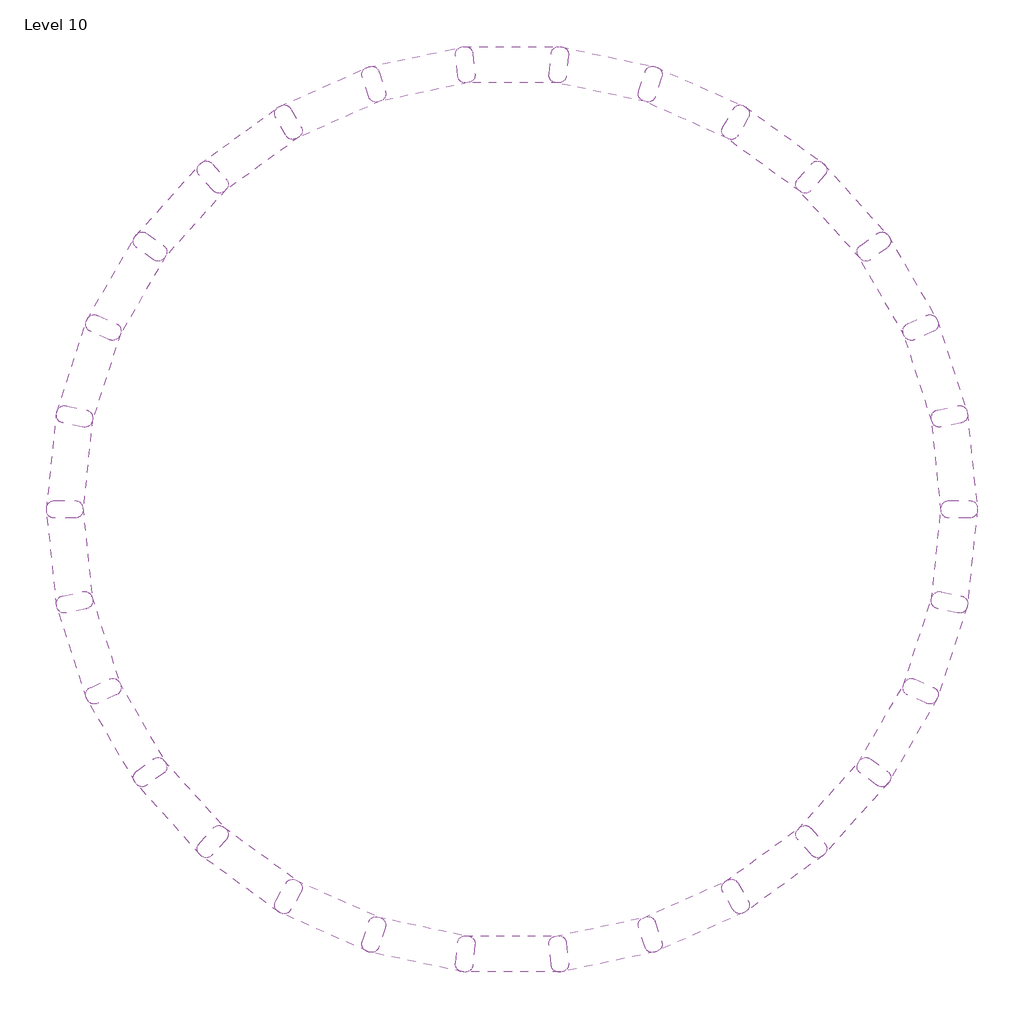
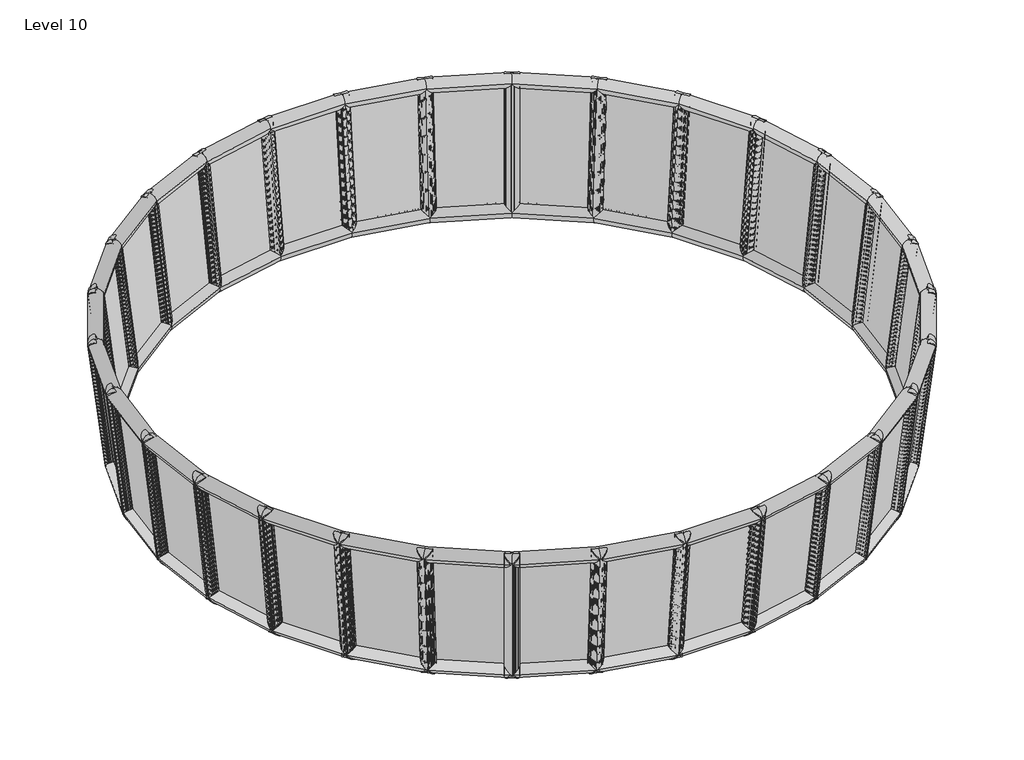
# One storey: 30 plates.
"""IFC4 building model written with IfcOpenShell, lengths in millimetres."""

from ifc_helpers import new_model, si_unit, origin, place, context, project, spatial, transform, mapped, element, save
from components import curtainpanel_curtainpanel_256ebfa4

model = new_model("IFC4")

# Units and contexts
model_context = context("Model", 3, world=origin())
ifc_project = project(units=[si_unit("LENGTHUNIT", "METRE", prefix="MILLI")], contexts=[model_context])

# Site, building, storey
site = spatial("IfcSite", under=ifc_project)
building = spatial("IfcBuilding", under=site)
storey = spatial("IfcBuildingStorey", under=building, Name="Level 10", Elevation=36000.0)

# Plates
placement = place(None, origin())
curtainpanel_curtainpanel_shape = curtainpanel_curtainpanel_256ebfa4(model_context)
element("IfcPlate", 1, ObjectType="CurtainPanel : CurtainPanel", at=placement, inside=storey, context=model_context, shape_type="MappedRepresentation", body=[
    mapped(curtainpanel_curtainpanel_shape, transform((11847.7823629, -2324.0958982, 47665.2696254), x_axis=(-0.12994493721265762, 0.9607468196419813, -0.24511193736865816), y_axis=(-0.08669746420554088, -0.2572707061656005, -0.9624423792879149), z_axis=(-0.9877235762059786, -0.10381393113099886, 0.11672533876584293))),
])
element("IfcPlate", 2, ObjectType="CurtainPanel : CurtainPanel", at=placement, inside=storey, context=model_context, shape_type="MappedRepresentation", body=[
    mapped(curtainpanel_curtainpanel_shape, transform((12006.730101, 248.511173, 47665.2696254), x_axis=(-0.3268558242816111, 0.9127351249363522, -0.24511193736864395), y_axis=(-0.031313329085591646, -0.2696741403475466, -0.9624423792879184), z_axis=(-0.944555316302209, -0.3069046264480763, 0.11672533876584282))),
])
element("IfcPlate", 3, ObjectType="CurtainPanel : CurtainPanel", at=placement, inside=storey, context=model_context, shape_type="MappedRepresentation", body=[
    mapped(curtainpanel_curtainpanel_shape, transform((11627.3293637, 2797.9477004, 47665.2696254), x_axis=(-0.5094815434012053, 0.8248325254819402, -0.24511193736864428), y_axis=(0.02543934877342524, -0.2702915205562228, -0.9624423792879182), z_axis=(-0.8601054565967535, -0.4965821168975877, 0.11672533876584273))),
])
element("IfcPlate", 4, ObjectType="CurtainPanel : CurtainPanel", at=placement, inside=storey, context=model_context, shape_type="MappedRepresentation", body=[
    mapped(curtainpanel_curtainpanel_shape, transform((10726.1617838, 5212.7910741, 47665.2696254), x_axis=(-0.6698404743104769, 0.7008807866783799, -0.245111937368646), y_axis=(0.08108020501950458, -0.2590958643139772, -0.9624423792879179), z_axis=(-0.7380648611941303, -0.6645565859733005, 0.1167253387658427))),
])
element("IfcPlate", 5, ObjectType="CurtainPanel : CurtainPanel", at=placement, inside=storey, context=model_context, shape_type="MappedRepresentation", body=[
    mapped(curtainpanel_curtainpanel_shape, transform((9342.6127087, 7387.501051, 47665.2696254), x_axis=(-0.8009241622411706, 0.5462971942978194, -0.245111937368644), y_axis=(0.1331774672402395, -0.2365764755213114, -0.9624423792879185), z_axis=(-0.5837672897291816, -0.803486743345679, 0.11672533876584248))),
])
element("IfcPlate", 6, ObjectType="CurtainPanel : CurtainPanel", at=placement, inside=storey, context=model_context, shape_type="MappedRepresentation", body=[
    mapped(curtainpanel_curtainpanel_shape, transform((7537.1498721, 9227.0323696, 47665.2696254), x_axis=(-0.8970036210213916, 0.36783779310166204, -0.24511193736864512), y_axis=(0.17945423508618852, -0.2037175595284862, -0.9624423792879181), z_axis=(-0.4039562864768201, -0.90730067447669, 0.11672533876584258))),
])
element("IfcPlate", 7, ObjectType="CurtainPanel : CurtainPanel", at=placement, inside=storey, context=model_context, shape_type="MappedRepresentation", body=[
    mapped(curtainpanel_curtainpanel_shape, transform((5388.6806635, 10650.9886843, 47665.2696254), x_axis=(-0.9538797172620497, 0.1733021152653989, -0.24511193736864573), y_axis=(0.21788799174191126, -0.1619552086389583, -0.962442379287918), z_axis=(-0.2064904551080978, -0.9714612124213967, 0.1167253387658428))),
])
element("IfcPlate", 8, ObjectType="CurtainPanel : CurtainPanel", at=placement, inside=storey, context=model_context, shape_type="MappedRepresentation", body=[
    mapped(curtainpanel_curtainpanel_shape, transform((2991.1034968, 11597.1362713, 47665.2696254), x_axis=(-0.969066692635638, -0.02880769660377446, -0.24511193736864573), y_axis=(0.2467989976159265, -0.11311463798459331, -0.962442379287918), z_axis=(0.0, -0.9931642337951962, 0.1167253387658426))),
])
element("IfcPlate", 9, ObjectType="CurtainPanel : CurtainPanel", at=placement, inside=storey, context=model_context, shape_type="MappedRepresentation", body=[
    mapped(curtainpanel_curtainpanel_shape, transform((449.2039991, 12024.1239409, 47665.2696254), x_axis=(-0.9419008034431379, -0.22965847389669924, -0.24511193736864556), y_axis=(0.2649237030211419, -0.059330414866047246, -0.9624423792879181), z_axis=(0.20649045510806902, -0.9714612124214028, 0.11672533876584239))),
])
element("IfcPlate", 10, ObjectType="CurtainPanel : CurtainPanel", at=placement, inside=storey, context=model_context, shape_type="MappedRepresentation", body=[
    mapped(curtainpanel_curtainpanel_shape, transform((-2125.9246243, 11913.2902829, 47665.2696254), x_axis=(-0.8735693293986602, -0.42047207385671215, -0.24511193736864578), y_axis=(0.2714699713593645, -0.0029531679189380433, -0.9624423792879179), z_axis=(0.4039562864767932, -0.9073006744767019, 0.1167253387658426))),
])
element("IfcPlate", 11, ObjectType="CurtainPanel : CurtainPanel", at=placement, inside=storey, context=model_context, shape_type="MappedRepresentation", body=[
    mapped(curtainpanel_curtainpanel_shape, transform((-4621.7368956, 11269.4792601, 47665.2696254), x_axis=(-0.7670586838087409, -0.5929090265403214, -0.24511193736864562), y_axis=(0.26615169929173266, 0.053553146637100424, -0.962442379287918), z_axis=(0.583767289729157, -0.8034867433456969, 0.11672533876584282))),
])
element("IfcPlate", 12, ObjectType="CurtainPanel : CurtainPanel", at=placement, inside=storey, context=model_context, shape_type="MappedRepresentation", body=[
    mapped(curtainpanel_curtainpanel_shape, transform((-8947.3302717, 8517.5395632, 47665.2696254), x_axis=(-0.459585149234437, -0.8536402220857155, -0.24511193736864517), y_axis=(0.22135964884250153, 0.15717688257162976, -0.962442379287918), z_axis=(0.8601054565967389, -0.49658211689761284, 0.11672533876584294))),
])
element("IfcPlate", 13, ObjectType="CurtainPanel : CurtainPanel", at=placement, inside=storey, context=model_context, shape_type="MappedRepresentation", body=[
    mapped(curtainpanel_curtainpanel_shape, transform((-6929.1538423, 10120.8285036, 47665.2696254), x_axis=(-0.6270238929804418, -0.7394330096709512, -0.24511193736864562), y_axis=(0.24920132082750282, 0.10771893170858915, -0.962442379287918), z_axis=(0.7380648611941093, -0.6645565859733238, 0.11672533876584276))),
])
element("IfcPlate", 14, ObjectType="CurtainPanel : CurtainPanel", at=placement, inside=storey, context=model_context, shape_type="MappedRepresentation", body=[
    mapped(curtainpanel_curtainpanel_shape, transform((-10588.0621895, 6529.683859, 47665.2696254), x_axis=(-0.27206032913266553, -0.9305392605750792, -0.24511193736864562), y_axis=(0.18384349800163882, 0.19976544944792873, -0.962442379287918), z_axis=(0.944555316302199, -0.30690462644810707, 0.11672533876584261))),
])
element("IfcPlate", 15, ObjectType="CurtainPanel : CurtainPanel", at=placement, inside=storey, context=model_context, shape_type="MappedRepresentation", body=[
    mapped(curtainpanel_curtainpanel_shape, transform((-11779.6417378, 4244.1402242, 47665.2696254), x_axis=(-0.0726451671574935, -0.9667692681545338, -0.2451119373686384), y_axis=(0.13829250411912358, 0.23362330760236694, -0.96244237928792), z_axis=(0.987723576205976, -0.10381393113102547, 0.11672533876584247))),
])
element("IfcPlate", 16, ObjectType="CurtainPanel : CurtainPanel", at=placement, inside=storey, context=model_context, shape_type="MappedRepresentation", body=[
    mapped(curtainpanel_curtainpanel_shape, transform((-12469.9911725, 1760.7978828, 47665.2696254), x_axis=(0.12994493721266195, -0.9607468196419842, -0.24511193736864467), y_axis=(0.08669746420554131, 0.2572707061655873, -0.9624423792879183), z_axis=(0.9877235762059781, 0.10381393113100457, 0.11672533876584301))),
])
element("IfcPlate", 17, ObjectType="CurtainPanel : CurtainPanel", at=placement, inside=storey, context=model_context, shape_type="MappedRepresentation", body=[
    mapped(curtainpanel_curtainpanel_shape, transform((-12628.9389107, -811.8091885, 47665.2696254), x_axis=(0.3268558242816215, -0.9127351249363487, -0.24511193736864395), y_axis=(0.03131332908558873, 0.26967414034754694, -0.9624423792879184), z_axis=(0.9445553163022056, 0.30690462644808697, 0.11672533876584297))),
])
element("IfcPlate", 18, ObjectType="CurtainPanel : CurtainPanel", at=placement, inside=storey, context=model_context, shape_type="MappedRepresentation", body=[
    mapped(curtainpanel_curtainpanel_shape, transform((-12249.5381734, -3361.2457158, 47665.2696254), x_axis=(0.5094815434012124, -0.8248325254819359, -0.24511193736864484), y_axis=(-0.025439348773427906, 0.2702915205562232, -0.9624423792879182), z_axis=(0.8601054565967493, 0.4965821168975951, 0.11672533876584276))),
])
element("IfcPlate", 19, ObjectType="CurtainPanel : CurtainPanel", at=placement, inside=storey, context=model_context, shape_type="MappedRepresentation", body=[
    mapped(curtainpanel_curtainpanel_shape, transform((-11348.3705934, -5776.0890895, 47665.2696254), x_axis=(0.6698404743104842, -0.7008807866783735, -0.2451119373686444), y_axis=(-0.08108020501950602, 0.25909586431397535, -0.9624423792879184), z_axis=(0.7380648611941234, 0.6645565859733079, 0.11672533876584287))),
])
element("IfcPlate", 20, ObjectType="CurtainPanel : CurtainPanel", at=placement, inside=storey, context=model_context, shape_type="MappedRepresentation", body=[
    mapped(curtainpanel_curtainpanel_shape, transform((-9964.8215184, -7950.7990664, 47665.2696254), x_axis=(0.800924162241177, -0.5462971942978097, -0.24511193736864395), y_axis=(-0.1331774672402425, 0.23657647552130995, -0.9624423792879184), z_axis=(0.583767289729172, 0.803486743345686, 0.11672533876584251))),
])
element("IfcPlate", 21, ObjectType="CurtainPanel : CurtainPanel", at=placement, inside=storey, context=model_context, shape_type="MappedRepresentation", body=[
    mapped(curtainpanel_curtainpanel_shape, transform((-8159.3586817, -9790.330385, 47665.2696254), x_axis=(0.8970036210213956, -0.3678377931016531, -0.24511193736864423), y_axis=(-0.17945423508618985, 0.20371755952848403, -0.9624423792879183), z_axis=(0.4039562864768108, 0.9073006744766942, 0.11672533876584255))),
])
element("IfcPlate", 22, ObjectType="CurtainPanel : CurtainPanel", at=placement, inside=storey, context=model_context, shape_type="MappedRepresentation", body=[
    mapped(curtainpanel_curtainpanel_shape, transform((-6010.8894731, -11214.2866998, 47665.2696254), x_axis=(0.953879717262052, -0.17330211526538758, -0.24511193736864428), y_axis=(-0.21788799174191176, 0.16195520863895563, -0.9624423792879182), z_axis=(0.20649045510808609, 0.9714612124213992, 0.11672533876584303))),
])
element("IfcPlate", 23, ObjectType="CurtainPanel : CurtainPanel", at=placement, inside=storey, context=model_context, shape_type="MappedRepresentation", body=[
    mapped(curtainpanel_curtainpanel_shape, transform((-3613.3123064, -12160.4342867, 47665.2696254), x_axis=(0.9690666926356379, 0.02880769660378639, -0.24511193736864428), y_axis=(-0.24679899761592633, 0.11311463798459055, -0.9624423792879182), z_axis=(0.0, 0.9931642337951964, 0.1167253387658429))),
])
element("IfcPlate", 24, ObjectType="CurtainPanel : CurtainPanel", at=placement, inside=storey, context=model_context, shape_type="MappedRepresentation", body=[
    mapped(curtainpanel_curtainpanel_shape, transform((-1071.4128087, -12587.4219563, 47665.2696254), x_axis=(0.9419008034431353, 0.22965847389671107, -0.24511193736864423), y_axis=(-0.2649237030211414, 0.05933041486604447, -0.9624423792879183), z_axis=(-0.20649045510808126, 0.9714612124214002, 0.11672533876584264))),
])
element("IfcPlate", 25, ObjectType="CurtainPanel : CurtainPanel", at=placement, inside=storey, context=model_context, shape_type="MappedRepresentation", body=[
    mapped(curtainpanel_curtainpanel_shape, transform((1503.7158147, -12476.5882983, 47665.2696254), x_axis=(0.8735693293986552, 0.4204720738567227, -0.24511193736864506), y_axis=(-0.2714699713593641, 0.0029531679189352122, -0.962442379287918), z_axis=(-0.40395628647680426, 0.9073006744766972, 0.11672533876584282))),
])
element("IfcPlate", 26, ObjectType="CurtainPanel : CurtainPanel", at=placement, inside=storey, context=model_context, shape_type="MappedRepresentation", body=[
    mapped(curtainpanel_curtainpanel_shape, transform((3999.528086, -11832.7772756, 47665.2696254), x_axis=(0.767058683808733, 0.5929090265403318, -0.245111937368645), y_axis=(-0.26615169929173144, -0.053553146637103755, -0.9624423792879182), z_axis=(-0.5837672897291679, 0.803486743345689, 0.11672533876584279))),
])
element("IfcPlate", 27, ObjectType="CurtainPanel : CurtainPanel", at=placement, inside=storey, context=model_context, shape_type="MappedRepresentation", body=[
    mapped(curtainpanel_curtainpanel_shape, transform((8325.1214621, -9080.8375786, 47665.2696254), x_axis=(0.4595851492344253, 0.8536402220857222, -0.24511193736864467), y_axis=(-0.2213596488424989, -0.15717688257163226, -0.9624423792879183), z_axis=(-0.860105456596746, 0.496582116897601, 0.1167253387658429))),
])
element("IfcPlate", 28, ObjectType="CurtainPanel : CurtainPanel", at=placement, inside=storey, context=model_context, shape_type="MappedRepresentation", body=[
    mapped(curtainpanel_curtainpanel_shape, transform((6306.9450327, -10684.126519, 47665.2696254), x_axis=(0.6270238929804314, 0.7394330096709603, -0.24511193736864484), y_axis=(-0.2492013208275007, -0.10771893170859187, -0.9624423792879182), z_axis=(-0.7380648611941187, 0.6645565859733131, 0.1167253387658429))),
])
element("IfcPlate", 29, ObjectType="CurtainPanel : CurtainPanel", at=placement, inside=storey, context=model_context, shape_type="MappedRepresentation", body=[
    mapped(curtainpanel_curtainpanel_shape, transform((9965.8533799, -7092.9818745, 47665.2696254), x_axis=(0.2720603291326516, 0.9305392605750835, -0.24511193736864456), y_axis=(-0.18384349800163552, -0.19976544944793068, -0.9624423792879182), z_axis=(-0.9445553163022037, 0.30690462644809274, 0.11672533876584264))),
])
element("IfcPlate", 30, ObjectType="CurtainPanel : CurtainPanel", at=placement, inside=storey, context=model_context, shape_type="MappedRepresentation", body=[
    mapped(curtainpanel_curtainpanel_shape, transform((11157.4329282, -4807.4382396, 47665.2696254), x_axis=(0.07264516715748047, 0.9667692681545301, -0.2451119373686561), y_axis=(-0.13829250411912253, -0.2336233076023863, -0.9624423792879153), z_axis=(-0.987723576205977, 0.10381393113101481, 0.11672533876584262))),
])

save(model, "model.ifc")
